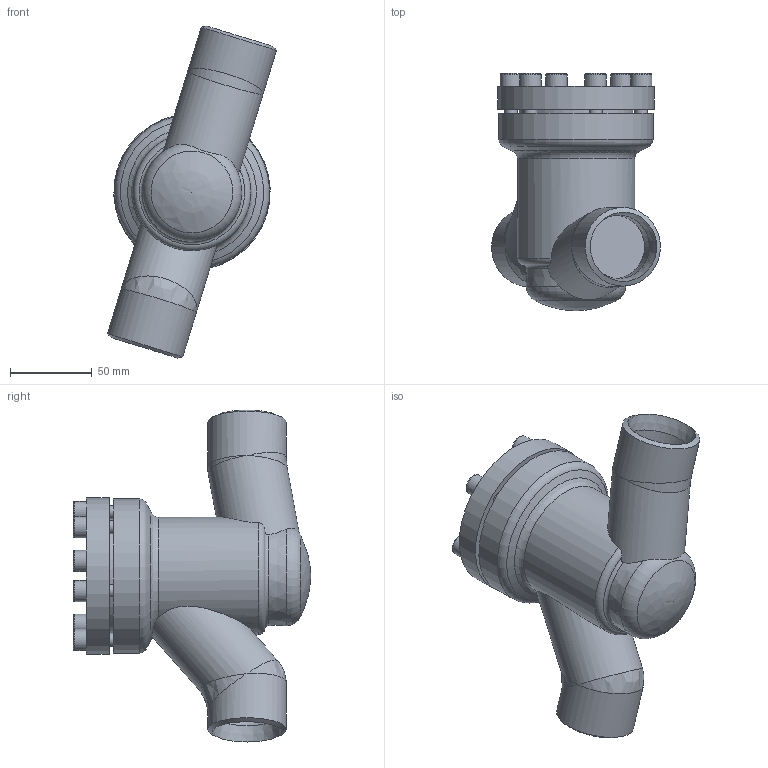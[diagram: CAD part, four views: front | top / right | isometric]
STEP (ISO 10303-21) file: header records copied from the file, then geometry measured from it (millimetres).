
FILE_DESCRIPTION(/* description */ (''),/* implementation_level */ '2;1');
FILE_NAME(/* name */ 'C:\Users\Jacob.Er\Desktop\52G00C14A5AX0000.stp',/* time_stamp */ '2014-12-19T11:00:28+01:00',/* author */ ('Jacob.Er'),/* organization */ (''),/* preprocessor_version */ 'ST-DEVELOPER v15.6',/* originating_system */ 'Autodesk Inventor 2015',/* authorisation */ '');
FILE_SCHEMA (('AUTOMOTIVE_DESIGN { 1 0 10303 214 3 1 1 }'));
Length unit declared in the file: millimetre
Products named in the file (4): 16G00E14.5034004; 52300E15.5141004; DIN 912 - M8 x 1,25 x 25 x 21,875; 52G00C14A5AX0000
Assembly tree (8 placements, depth 2):
  52G00C14A5AX0000
    16G00E14.5034004
    52300E15.5141004
    DIN 912 - M8 x 1,25 x 25 x 21,875  x6
Bounding box: 103.65 x 145.5 x 203.69 mm (x, y, z)
Volume: 562552 mm3; surface area: 120477.1 mm2
Topology: 8 solids, 8 shells, 166 faces, 374 edges, 226 vertices
Faces by surface type: plane 64, cylinder 43, cone 33, torus 20, bspline 6
Full cylindrical faces by diameter (mm): 6.647 x6, 8 x6, 9 x6, 13 x6, 39 x2, 48.3 x4, 51 x1, 53 x1, 55 x1, 56 x1, 62 x3, 64 x1, 70 x2, 72 x1, 95 x1, 96 x1
Entity records: 2535 total; most frequent: CARTESIAN_POINT 747, DIRECTION 384, ORIENTED_EDGE 238, AXIS2_PLACEMENT_3D 186, EDGE_LOOP 173, EDGE_CURVE 119, VERTEX_POINT 104, FACE_OUTER_BOUND 91
